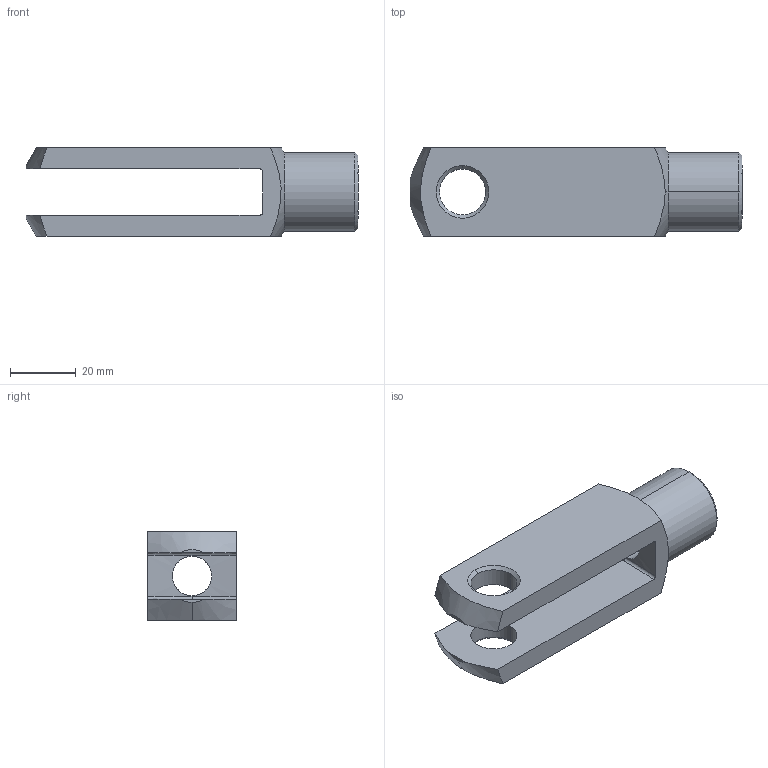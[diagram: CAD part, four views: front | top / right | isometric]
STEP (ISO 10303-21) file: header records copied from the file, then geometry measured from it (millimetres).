
FILE_DESCRIPTION (( 'STEP AP214' ), '1' );
FILE_NAME ('11.G1456FG.STEP', '2017-10-30T09:53:19', ( '' ), ( '' ), 'SwSTEP 2.0', 'SolidWorks 2016', '' );
FILE_SCHEMA (( 'AUTOMOTIVE_DESIGN' ));
Length unit declared in the file: millimetre
Products named in the file (1): 11.G1456FG
Bounding box: 101 x 27 x 27 mm (x, y, z)
Volume: 33358.1 mm3; surface area: 13613 mm2
Topology: 1 solids, 1 shells, 35 faces, 93 edges, 59 vertices
Faces by surface type: cone 13, cylinder 10, plane 9, torus 3
Entity records: 1416 total; most frequent: CARTESIAN_POINT 512, ORIENTED_EDGE 186, DIRECTION 179, EDGE_CURVE 93, AXIS2_PLACEMENT_3D 73, VERTEX_POINT 59, EDGE_LOOP 40, CIRCLE 37
